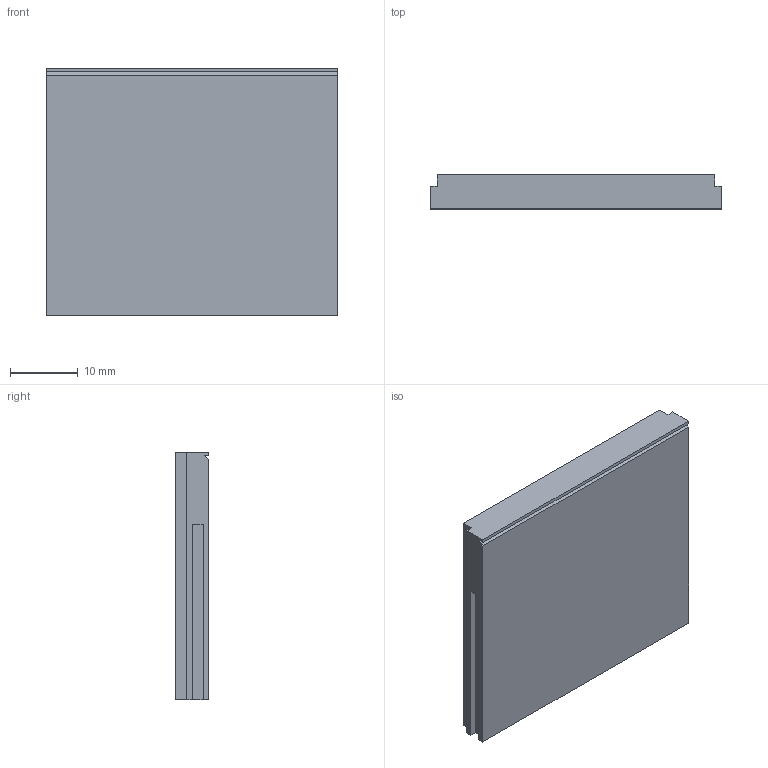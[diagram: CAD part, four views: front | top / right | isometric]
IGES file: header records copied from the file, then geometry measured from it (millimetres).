
Start section:  PTC IGES file: cf-type2_prt.igs
Global section: file name: cf-type2_prt.igs; native system: Pro/ENGINEER by Parametric Technology Corporation; preprocessor: 2000030; author: ECaille; organization: Unknown; date: 000803.091923; units: millimetre
Bounding box: 42.8 x 5 x 36.4 mm (x, y, z)
Surface area: 4041.1 mm2 (no closed solid volume)
Topology: 0 solids, 0 shells, 21 faces, 201 edges, 288 vertices
Faces by surface type: bspline 21
